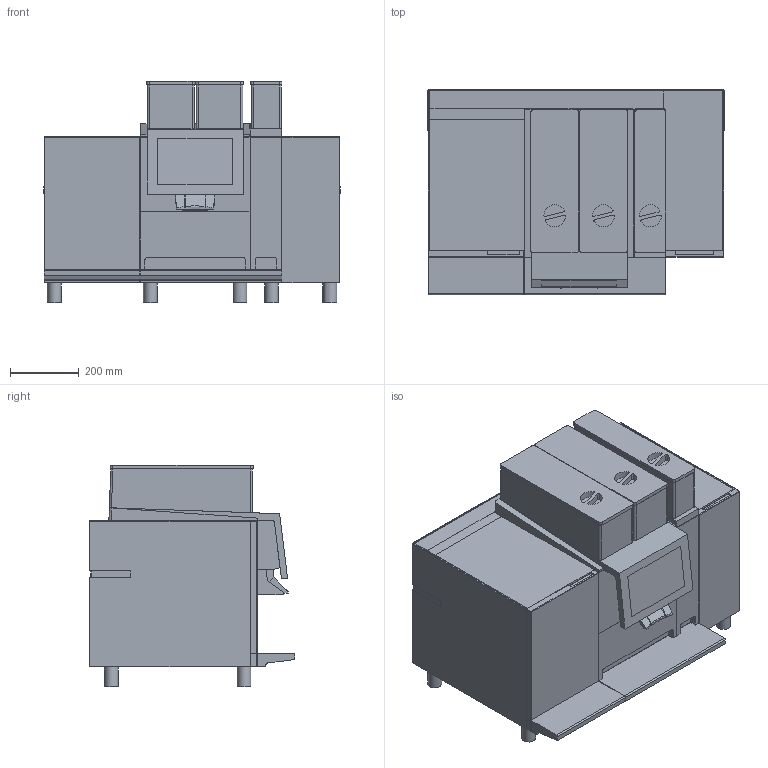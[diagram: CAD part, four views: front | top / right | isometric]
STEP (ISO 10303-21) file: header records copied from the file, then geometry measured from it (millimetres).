
FILE_DESCRIPTION(/* description */ ('Unknown'),/* implementation_level */ '2;1');
FILE_NAME(/* name */ 'HM_BW4-CTM-P-F-RL',/* time_stamp */ '2026-08-14T11:17:17+02:00',/* author */ ('Unknown'),/* organization */ ('Unknown'),/* preprocessor_version */ 'ST-DEVELOPER v20',/* originating_system */ 'Solid Edge',/* authorisation */ 'Unknown');
FILE_SCHEMA (('AUTOMOTIVE_DESIGN {1 0 10303 214 3 1 1}'));
Length unit declared in the file: millimetre
Products named in the file (1): HM_BW4-CTM-P-F-RL
Bounding box: 863.3 x 599.39 x 645.65 mm (x, y, z)
Volume: 209845894.4 mm3; surface area: 3030253 mm2
Topology: 1 solids, 1 shells, 364 faces, 987 edges, 637 vertices
Faces by surface type: plane 262, cylinder 98, sphere 4
Full cylindrical faces by diameter (mm): 40 x10
Entity records: 13872 total; most frequent: CARTESIAN_POINT 1967, ORIENTED_EDGE 1938, DIRECTION 1911, EDGE_CURVE 969, LINE 757, VECTOR 757, VERTEX_POINT 633, AXIS2_PLACEMENT_3D 577
